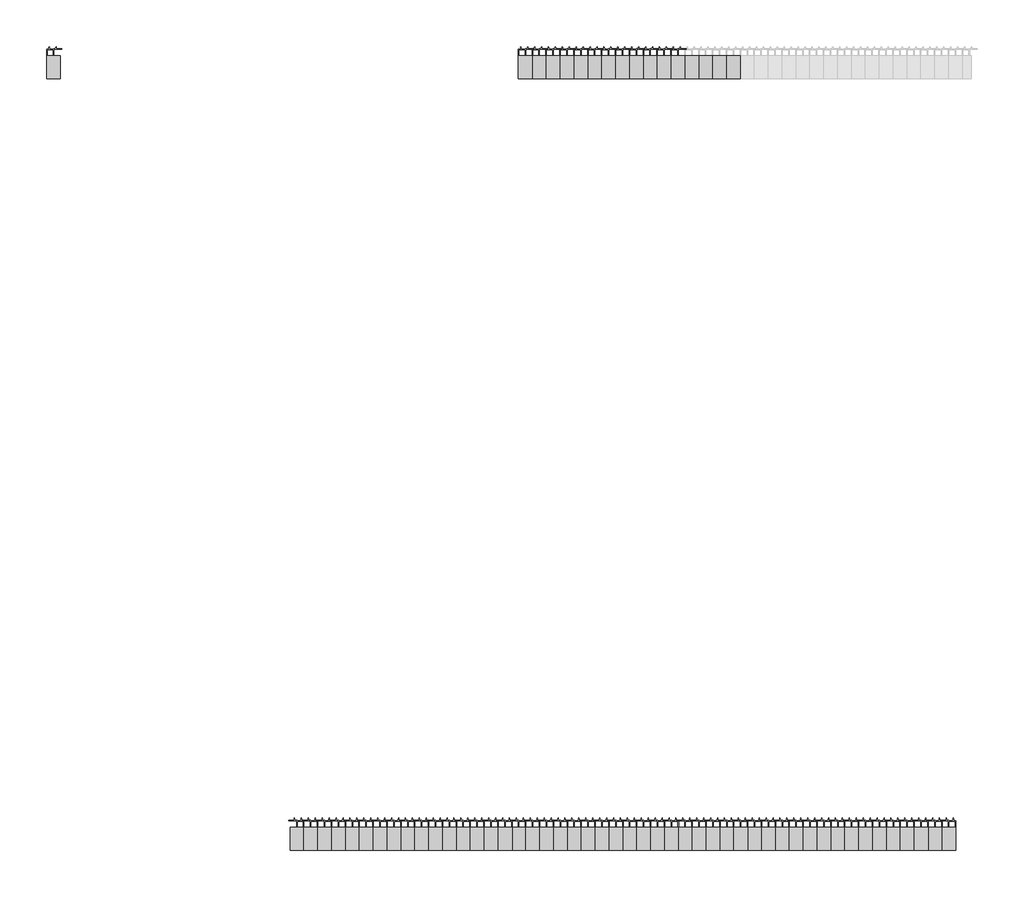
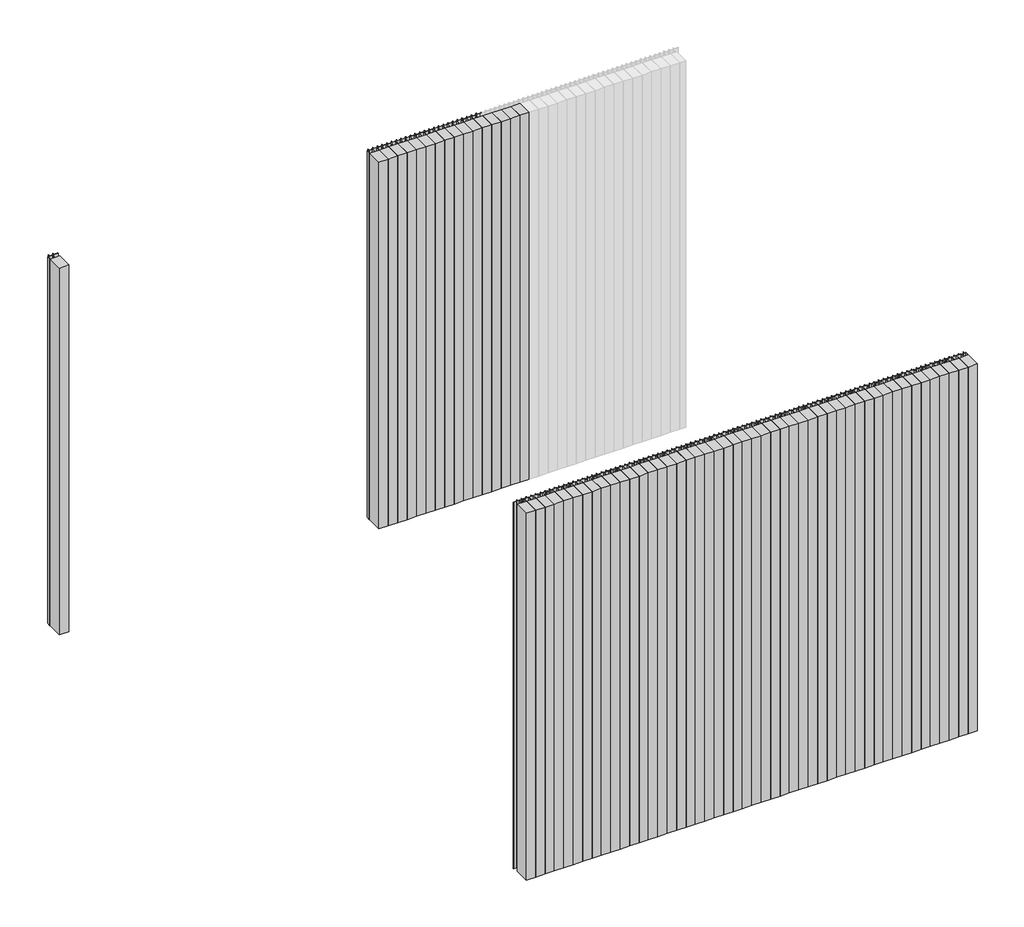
# One storey, part 1 of 3: 65 plates, 61 members.
"""IFC4 building model written with IfcOpenShell, lengths in millimetres."""

from ifc_helpers import new_model, si_unit, origin, place, context, project, spatial, transform, mapped, element, save
from components import rectangular_mullion_776733ef, rectangular_mullion_087e8397, rectangular_mullion_6a9919f5, rectangular_mullion_e1b6cc7b, empty_system_panel_empty_5508d8ad, empty_system_panel_empty_aff67664, empty_system_panel_empty_a3f81492, empty_system_panel_empty_61b9929b

model = new_model("IFC4")

# Units and contexts
model_context = context("Model", 3, world=origin())
ifc_project = project(units=[si_unit("LENGTHUNIT", "METRE", prefix="MILLI")], contexts=[model_context])

# Site, building, storey
site = spatial("IfcSite", under=ifc_project)
building = spatial("IfcBuilding", under=site)
storey = spatial("IfcBuildingStorey", under=building, Name="REN - Top", Elevation=4000.0)

# Members
placement = place(None, origin())
rectangular_mullion_shape = rectangular_mullion_776733ef(model_context)
element("IfcMember", 1, ObjectType="Rectangular Mullion : Renson_Linarte_LA-E25-01 Zone B", at=placement, inside=storey, context=model_context, shape_type="MappedRepresentation", body=[
    mapped(rectangular_mullion_shape, transform((385015.5749429, -18477.8406315, 0.0), x_axis=(1.0, 0.0, 0.0), y_axis=(0.0, -1.0, 0.0), z_axis=(0.0, 0.0, -1.0))),
])
element("IfcMember", 2, ObjectType="Rectangular Mullion : Renson_Linarte_LA-E25-01 Zone B", at=placement, inside=storey, context=model_context, shape_type="MappedRepresentation", body=[
    mapped(rectangular_mullion_shape, transform((385075.5749429, -18477.8406315, 0.0), x_axis=(1.0, 0.0, 0.0), y_axis=(0.0, -1.0, 0.0), z_axis=(0.0, 0.0, -1.0))),
])
element("IfcMember", 3, ObjectType="Rectangular Mullion : Renson_Linarte_LA-E25-01 Zone B", at=placement, inside=storey, context=model_context, shape_type="MappedRepresentation", body=[
    mapped(rectangular_mullion_shape, transform((385135.5749429, -18477.8406315, 0.0), x_axis=(1.0, 0.0, 0.0), y_axis=(0.0, -1.0, 0.0), z_axis=(0.0, 0.0, -1.0))),
])
element("IfcMember", 4, ObjectType="Rectangular Mullion : Renson_Linarte_LA-E25-01 Zone B", at=placement, inside=storey, context=model_context, shape_type="MappedRepresentation", body=[
    mapped(rectangular_mullion_shape, transform((385195.5749429, -18477.8406315, 0.0), x_axis=(1.0, 0.0, 0.0), y_axis=(0.0, -1.0, 0.0), z_axis=(0.0, 0.0, -1.0))),
])
element("IfcMember", 5, ObjectType="Rectangular Mullion : Renson_Linarte_LA-E25-01 Zone B", at=placement, inside=storey, context=model_context, shape_type="MappedRepresentation", body=[
    mapped(rectangular_mullion_shape, transform((385255.5749429, -18477.8406315, 0.0), x_axis=(1.0, 0.0, 0.0), y_axis=(0.0, -1.0, 0.0), z_axis=(0.0, 0.0, -1.0))),
])
element("IfcMember", 6, ObjectType="Rectangular Mullion : Renson_Linarte_LA-E25-01 Zone B", at=placement, inside=storey, context=model_context, shape_type="MappedRepresentation", body=[
    mapped(rectangular_mullion_shape, transform((385315.5749429, -18477.8406315, 0.0), x_axis=(1.0, 0.0, 0.0), y_axis=(0.0, -1.0, 0.0), z_axis=(0.0, 0.0, -1.0))),
])
element("IfcMember", 7, ObjectType="Rectangular Mullion : Renson_Linarte_LA-E25-01 Zone B", at=placement, inside=storey, context=model_context, shape_type="MappedRepresentation", body=[
    mapped(rectangular_mullion_shape, transform((385375.5749429, -18477.8406315, 0.0), x_axis=(1.0, 0.0, 0.0), y_axis=(0.0, -1.0, 0.0), z_axis=(0.0, 0.0, -1.0))),
])
element("IfcMember", 8, ObjectType="Rectangular Mullion : Renson_Linarte_LA-E25-01 Zone B", at=placement, inside=storey, context=model_context, shape_type="MappedRepresentation", body=[
    mapped(rectangular_mullion_shape, transform((385435.5749429, -18477.8406315, 0.0), x_axis=(1.0, 0.0, 0.0), y_axis=(0.0, -1.0, 0.0), z_axis=(0.0, 0.0, -1.0))),
])
element("IfcMember", 9, ObjectType="Rectangular Mullion : Renson_Linarte_LA-E25-01 Zone B", at=placement, inside=storey, context=model_context, shape_type="MappedRepresentation", body=[
    mapped(rectangular_mullion_shape, transform((385495.5749429, -18477.8406315, 0.0), x_axis=(1.0, 0.0, 0.0), y_axis=(0.0, -1.0, 0.0), z_axis=(0.0, 0.0, -1.0))),
])
element("IfcMember", 10, ObjectType="Rectangular Mullion : Renson_Linarte_LA-E25-01 Zone B", at=placement, inside=storey, context=model_context, shape_type="MappedRepresentation", body=[
    mapped(rectangular_mullion_shape, transform((385555.5749429, -18477.8406315, 0.0), x_axis=(1.0, 0.0, 0.0), y_axis=(0.0, -1.0, 0.0), z_axis=(0.0, 0.0, -1.0))),
])
element("IfcMember", 11, ObjectType="Rectangular Mullion : Renson_Linarte_LA-E25-01 Zone B", at=placement, inside=storey, context=model_context, shape_type="MappedRepresentation", body=[
    mapped(rectangular_mullion_shape, transform((385615.5749429, -18477.8406315, 0.0), x_axis=(1.0, 0.0, 0.0), y_axis=(0.0, -1.0, 0.0), z_axis=(0.0, 0.0, -1.0))),
])
element("IfcMember", 12, ObjectType="Rectangular Mullion : Renson_Linarte_LA-E25-01 Zone B", at=placement, inside=storey, context=model_context, shape_type="MappedRepresentation", body=[
    mapped(rectangular_mullion_shape, transform((385675.5749429, -18477.8406315, 0.0), x_axis=(1.0, 0.0, 0.0), y_axis=(0.0, -1.0, 0.0), z_axis=(0.0, 0.0, -1.0))),
])
rectangular_mullion_2_shape = rectangular_mullion_087e8397(model_context)
element("IfcMember", 13, ObjectType="Rectangular Mullion : Renson_Linarte_LA-E25-01 Zone B", at=placement, inside=storey, context=model_context, shape_type="MappedRepresentation", body=[
    mapped(rectangular_mullion_2_shape, transform((382975.5749426, -18477.8406315, 2475.0), x_axis=(-1.0, 0.0, 0.0), y_axis=(0.0, -1.0, 0.0), z_axis=(0.0, 0.0, 1.0))),
])
rectangular_mullion_3_shape = rectangular_mullion_6a9919f5(model_context)
element("IfcMember", 14, ObjectType="Rectangular Mullion : Renson_Linarte_LA-E25-01 Zone B", at=placement, inside=storey, context=model_context, shape_type="MappedRepresentation", body=[
    mapped(rectangular_mullion_3_shape, transform((386789.0900204, -21816.7045876, 0.0), x_axis=(-1.0, 0.0, 0.0), y_axis=(0.0, 1.0, 0.0), z_axis=(0.0, 0.0, -1.0))),
])
element("IfcMember", 15, ObjectType="Rectangular Mullion : Renson_Linarte_LA-E25-01 Zone B", at=placement, inside=storey, context=model_context, shape_type="MappedRepresentation", body=[
    mapped(rectangular_mullion_3_shape, transform((386729.0900204, -21816.7045876, 0.0), x_axis=(-1.0, 0.0, 0.0), y_axis=(0.0, 1.0, 0.0), z_axis=(0.0, 0.0, -1.0))),
])
element("IfcMember", 16, ObjectType="Rectangular Mullion : Renson_Linarte_LA-E25-01 Zone B", at=placement, inside=storey, context=model_context, shape_type="MappedRepresentation", body=[
    mapped(rectangular_mullion_3_shape, transform((386669.0900204, -21816.7045876, 0.0), x_axis=(-1.0, 0.0, 0.0), y_axis=(0.0, 1.0, 0.0), z_axis=(0.0, 0.0, -1.0))),
])
element("IfcMember", 17, ObjectType="Rectangular Mullion : Renson_Linarte_LA-E25-01 Zone B", at=placement, inside=storey, context=model_context, shape_type="MappedRepresentation", body=[
    mapped(rectangular_mullion_3_shape, transform((386609.0900204, -21816.7045876, 0.0), x_axis=(-1.0, 0.0, 0.0), y_axis=(0.0, 1.0, 0.0), z_axis=(0.0, 0.0, -1.0))),
])
element("IfcMember", 18, ObjectType="Rectangular Mullion : Renson_Linarte_LA-E25-01 Zone B", at=placement, inside=storey, context=model_context, shape_type="MappedRepresentation", body=[
    mapped(rectangular_mullion_3_shape, transform((386549.0900204, -21816.7045876, 0.0), x_axis=(-1.0, 0.0, 0.0), y_axis=(0.0, 1.0, 0.0), z_axis=(0.0, 0.0, -1.0))),
])
element("IfcMember", 19, ObjectType="Rectangular Mullion : Renson_Linarte_LA-E25-01 Zone B", at=placement, inside=storey, context=model_context, shape_type="MappedRepresentation", body=[
    mapped(rectangular_mullion_3_shape, transform((386489.0900204, -21816.7045876, 0.0), x_axis=(-1.0, 0.0, 0.0), y_axis=(0.0, 1.0, 0.0), z_axis=(0.0, 0.0, -1.0))),
])
element("IfcMember", 20, ObjectType="Rectangular Mullion : Renson_Linarte_LA-E25-01 Zone B", at=placement, inside=storey, context=model_context, shape_type="MappedRepresentation", body=[
    mapped(rectangular_mullion_3_shape, transform((386429.0900204, -21816.7045876, 0.0), x_axis=(-1.0, 0.0, 0.0), y_axis=(0.0, 1.0, 0.0), z_axis=(0.0, 0.0, -1.0))),
])
element("IfcMember", 21, ObjectType="Rectangular Mullion : Renson_Linarte_LA-E25-01 Zone B", at=placement, inside=storey, context=model_context, shape_type="MappedRepresentation", body=[
    mapped(rectangular_mullion_3_shape, transform((386369.0900204, -21816.7045876, 0.0), x_axis=(-1.0, 0.0, 0.0), y_axis=(0.0, 1.0, 0.0), z_axis=(0.0, 0.0, -1.0))),
])
element("IfcMember", 22, ObjectType="Rectangular Mullion : Renson_Linarte_LA-E25-01 Zone B", at=placement, inside=storey, context=model_context, shape_type="MappedRepresentation", body=[
    mapped(rectangular_mullion_3_shape, transform((386309.0900204, -21816.7045876, 0.0), x_axis=(-1.0, 0.0, 0.0), y_axis=(0.0, 1.0, 0.0), z_axis=(0.0, 0.0, -1.0))),
])
element("IfcMember", 23, ObjectType="Rectangular Mullion : Renson_Linarte_LA-E25-01 Zone B", at=placement, inside=storey, context=model_context, shape_type="MappedRepresentation", body=[
    mapped(rectangular_mullion_3_shape, transform((386249.0900204, -21816.7045876, 0.0), x_axis=(-1.0, 0.0, 0.0), y_axis=(0.0, 1.0, 0.0), z_axis=(0.0, 0.0, -1.0))),
])
element("IfcMember", 24, ObjectType="Rectangular Mullion : Renson_Linarte_LA-E25-01 Zone B", at=placement, inside=storey, context=model_context, shape_type="MappedRepresentation", body=[
    mapped(rectangular_mullion_3_shape, transform((386189.0900204, -21816.7045876, 0.0), x_axis=(-1.0, 0.0, 0.0), y_axis=(0.0, 1.0, 0.0), z_axis=(0.0, 0.0, -1.0))),
])
element("IfcMember", 25, ObjectType="Rectangular Mullion : Renson_Linarte_LA-E25-01 Zone B", at=placement, inside=storey, context=model_context, shape_type="MappedRepresentation", body=[
    mapped(rectangular_mullion_3_shape, transform((386129.0900204, -21816.7045876, 0.0), x_axis=(-1.0, 0.0, 0.0), y_axis=(0.0, 1.0, 0.0), z_axis=(0.0, 0.0, -1.0))),
])
element("IfcMember", 26, ObjectType="Rectangular Mullion : Renson_Linarte_LA-E25-01 Zone B", at=placement, inside=storey, context=model_context, shape_type="MappedRepresentation", body=[
    mapped(rectangular_mullion_3_shape, transform((386069.0900204, -21816.7045876, 0.0), x_axis=(-1.0, 0.0, 0.0), y_axis=(0.0, 1.0, 0.0), z_axis=(0.0, 0.0, -1.0))),
])
element("IfcMember", 27, ObjectType="Rectangular Mullion : Renson_Linarte_LA-E25-01 Zone B", at=placement, inside=storey, context=model_context, shape_type="MappedRepresentation", body=[
    mapped(rectangular_mullion_3_shape, transform((386009.0900204, -21816.7045876, 0.0), x_axis=(-1.0, 0.0, 0.0), y_axis=(0.0, 1.0, 0.0), z_axis=(0.0, 0.0, -1.0))),
])
element("IfcMember", 28, ObjectType="Rectangular Mullion : Renson_Linarte_LA-E25-01 Zone B", at=placement, inside=storey, context=model_context, shape_type="MappedRepresentation", body=[
    mapped(rectangular_mullion_3_shape, transform((385949.0900204, -21816.7045876, 0.0), x_axis=(-1.0, 0.0, 0.0), y_axis=(0.0, 1.0, 0.0), z_axis=(0.0, 0.0, -1.0))),
])
element("IfcMember", 29, ObjectType="Rectangular Mullion : Renson_Linarte_LA-E25-01 Zone B", at=placement, inside=storey, context=model_context, shape_type="MappedRepresentation", body=[
    mapped(rectangular_mullion_3_shape, transform((385889.0900204, -21816.7045876, 0.0), x_axis=(-1.0, 0.0, 0.0), y_axis=(0.0, 1.0, 0.0), z_axis=(0.0, 0.0, -1.0))),
])
element("IfcMember", 30, ObjectType="Rectangular Mullion : Renson_Linarte_LA-E25-01 Zone B", at=placement, inside=storey, context=model_context, shape_type="MappedRepresentation", body=[
    mapped(rectangular_mullion_3_shape, transform((385829.0900204, -21816.7045876, 0.0), x_axis=(-1.0, 0.0, 0.0), y_axis=(0.0, 1.0, 0.0), z_axis=(0.0, 0.0, -1.0))),
])
element("IfcMember", 31, ObjectType="Rectangular Mullion : Renson_Linarte_LA-E25-01 Zone B", at=placement, inside=storey, context=model_context, shape_type="MappedRepresentation", body=[
    mapped(rectangular_mullion_3_shape, transform((385769.0900204, -21816.7045876, 0.0), x_axis=(-1.0, 0.0, 0.0), y_axis=(0.0, 1.0, 0.0), z_axis=(0.0, 0.0, -1.0))),
])
element("IfcMember", 32, ObjectType="Rectangular Mullion : Renson_Linarte_LA-E25-01 Zone B", at=placement, inside=storey, context=model_context, shape_type="MappedRepresentation", body=[
    mapped(rectangular_mullion_3_shape, transform((385709.0900204, -21816.7045876, 0.0), x_axis=(-1.0, 0.0, 0.0), y_axis=(0.0, 1.0, 0.0), z_axis=(0.0, 0.0, -1.0))),
])
element("IfcMember", 33, ObjectType="Rectangular Mullion : Renson_Linarte_LA-E25-01 Zone B", at=placement, inside=storey, context=model_context, shape_type="MappedRepresentation", body=[
    mapped(rectangular_mullion_3_shape, transform((385649.0900204, -21816.7045876, 0.0), x_axis=(-1.0, 0.0, 0.0), y_axis=(0.0, 1.0, 0.0), z_axis=(0.0, 0.0, -1.0))),
])
element("IfcMember", 34, ObjectType="Rectangular Mullion : Renson_Linarte_LA-E25-01 Zone B", at=placement, inside=storey, context=model_context, shape_type="MappedRepresentation", body=[
    mapped(rectangular_mullion_3_shape, transform((385589.0900204, -21816.7045876, 0.0), x_axis=(-1.0, 0.0, 0.0), y_axis=(0.0, 1.0, 0.0), z_axis=(0.0, 0.0, -1.0))),
])
element("IfcMember", 35, ObjectType="Rectangular Mullion : Renson_Linarte_LA-E25-01 Zone B", at=placement, inside=storey, context=model_context, shape_type="MappedRepresentation", body=[
    mapped(rectangular_mullion_3_shape, transform((385529.0900204, -21816.7045876, 0.0), x_axis=(-1.0, 0.0, 0.0), y_axis=(0.0, 1.0, 0.0), z_axis=(0.0, 0.0, -1.0))),
])
element("IfcMember", 36, ObjectType="Rectangular Mullion : Renson_Linarte_LA-E25-01 Zone B", at=placement, inside=storey, context=model_context, shape_type="MappedRepresentation", body=[
    mapped(rectangular_mullion_3_shape, transform((386849.0900204, -21816.7045876, 0.0), x_axis=(-1.0, 0.0, 0.0), y_axis=(0.0, 1.0, 0.0), z_axis=(0.0, 0.0, -1.0))),
])
element("IfcMember", 37, ObjectType="Rectangular Mullion : Renson_Linarte_LA-E25-01 Zone B", at=placement, inside=storey, context=model_context, shape_type="MappedRepresentation", body=[
    mapped(rectangular_mullion_3_shape, transform((385469.0900204, -21816.7045876, 0.0), x_axis=(-1.0, 0.0, 0.0), y_axis=(0.0, 1.0, 0.0), z_axis=(0.0, 0.0, -1.0))),
])
element("IfcMember", 38, ObjectType="Rectangular Mullion : Renson_Linarte_LA-E25-01 Zone B", at=placement, inside=storey, context=model_context, shape_type="MappedRepresentation", body=[
    mapped(rectangular_mullion_3_shape, transform((385409.0900204, -21816.7045876, 0.0), x_axis=(-1.0, 0.0, 0.0), y_axis=(0.0, 1.0, 0.0), z_axis=(0.0, 0.0, -1.0))),
])
element("IfcMember", 39, ObjectType="Rectangular Mullion : Renson_Linarte_LA-E25-01 Zone B", at=placement, inside=storey, context=model_context, shape_type="MappedRepresentation", body=[
    mapped(rectangular_mullion_3_shape, transform((385349.0900204, -21816.7045876, 0.0), x_axis=(-1.0, 0.0, 0.0), y_axis=(0.0, 1.0, 0.0), z_axis=(0.0, 0.0, -1.0))),
])
element("IfcMember", 40, ObjectType="Rectangular Mullion : Renson_Linarte_LA-E25-01 Zone B", at=placement, inside=storey, context=model_context, shape_type="MappedRepresentation", body=[
    mapped(rectangular_mullion_3_shape, transform((385289.0900204, -21816.7045876, 0.0), x_axis=(-1.0, 0.0, 0.0), y_axis=(0.0, 1.0, 0.0), z_axis=(0.0, 0.0, -1.0))),
])
element("IfcMember", 41, ObjectType="Rectangular Mullion : Renson_Linarte_LA-E25-01 Zone B", at=placement, inside=storey, context=model_context, shape_type="MappedRepresentation", body=[
    mapped(rectangular_mullion_3_shape, transform((385229.0900204, -21816.7045876, 0.0), x_axis=(-1.0, 0.0, 0.0), y_axis=(0.0, 1.0, 0.0), z_axis=(0.0, 0.0, -1.0))),
])
element("IfcMember", 42, ObjectType="Rectangular Mullion : Renson_Linarte_LA-E25-01 Zone B", at=placement, inside=storey, context=model_context, shape_type="MappedRepresentation", body=[
    mapped(rectangular_mullion_3_shape, transform((385169.0900204, -21816.7045876, 0.0), x_axis=(-1.0, 0.0, 0.0), y_axis=(0.0, 1.0, 0.0), z_axis=(0.0, 0.0, -1.0))),
])
element("IfcMember", 43, ObjectType="Rectangular Mullion : Renson_Linarte_LA-E25-01 Zone B", at=placement, inside=storey, context=model_context, shape_type="MappedRepresentation", body=[
    mapped(rectangular_mullion_3_shape, transform((385109.0900204, -21816.7045876, 0.0), x_axis=(-1.0, 0.0, 0.0), y_axis=(0.0, 1.0, 0.0), z_axis=(0.0, 0.0, -1.0))),
])
element("IfcMember", 44, ObjectType="Rectangular Mullion : Renson_Linarte_LA-E25-01 Zone B", at=placement, inside=storey, context=model_context, shape_type="MappedRepresentation", body=[
    mapped(rectangular_mullion_3_shape, transform((385049.0900204, -21816.7045876, 0.0), x_axis=(-1.0, 0.0, 0.0), y_axis=(0.0, 1.0, 0.0), z_axis=(0.0, 0.0, -1.0))),
])
element("IfcMember", 45, ObjectType="Rectangular Mullion : Renson_Linarte_LA-E25-01 Zone B", at=placement, inside=storey, context=model_context, shape_type="MappedRepresentation", body=[
    mapped(rectangular_mullion_3_shape, transform((384989.0900204, -21816.7045876, 0.0), x_axis=(-1.0, 0.0, 0.0), y_axis=(0.0, 1.0, 0.0), z_axis=(0.0, 0.0, -1.0))),
])
element("IfcMember", 46, ObjectType="Rectangular Mullion : Renson_Linarte_LA-E25-01 Zone B", at=placement, inside=storey, context=model_context, shape_type="MappedRepresentation", body=[
    mapped(rectangular_mullion_3_shape, transform((384929.0900204, -21816.7045876, 0.0), x_axis=(-1.0, 0.0, 0.0), y_axis=(0.0, 1.0, 0.0), z_axis=(0.0, 0.0, -1.0))),
])
element("IfcMember", 47, ObjectType="Rectangular Mullion : Renson_Linarte_LA-E25-01 Zone B", at=placement, inside=storey, context=model_context, shape_type="MappedRepresentation", body=[
    mapped(rectangular_mullion_3_shape, transform((384869.0900204, -21816.7045876, 0.0), x_axis=(-1.0, 0.0, 0.0), y_axis=(0.0, 1.0, 0.0), z_axis=(0.0, 0.0, -1.0))),
])
element("IfcMember", 48, ObjectType="Rectangular Mullion : Renson_Linarte_LA-E25-01 Zone B", at=placement, inside=storey, context=model_context, shape_type="MappedRepresentation", body=[
    mapped(rectangular_mullion_3_shape, transform((384809.0900204, -21816.7045876, 0.0), x_axis=(-1.0, 0.0, 0.0), y_axis=(0.0, 1.0, 0.0), z_axis=(0.0, 0.0, -1.0))),
])
element("IfcMember", 49, ObjectType="Rectangular Mullion : Renson_Linarte_LA-E25-01 Zone B", at=placement, inside=storey, context=model_context, shape_type="MappedRepresentation", body=[
    mapped(rectangular_mullion_3_shape, transform((384749.0900204, -21816.7045876, 0.0), x_axis=(-1.0, 0.0, 0.0), y_axis=(0.0, 1.0, 0.0), z_axis=(0.0, 0.0, -1.0))),
])
element("IfcMember", 50, ObjectType="Rectangular Mullion : Renson_Linarte_LA-E25-01 Zone B", at=placement, inside=storey, context=model_context, shape_type="MappedRepresentation", body=[
    mapped(rectangular_mullion_3_shape, transform((384689.0900204, -21816.7045876, 0.0), x_axis=(-1.0, 0.0, 0.0), y_axis=(0.0, 1.0, 0.0), z_axis=(0.0, 0.0, -1.0))),
])
element("IfcMember", 51, ObjectType="Rectangular Mullion : Renson_Linarte_LA-E25-01 Zone B", at=placement, inside=storey, context=model_context, shape_type="MappedRepresentation", body=[
    mapped(rectangular_mullion_3_shape, transform((384629.0900204, -21816.7045876, 0.0), x_axis=(-1.0, 0.0, 0.0), y_axis=(0.0, 1.0, 0.0), z_axis=(0.0, 0.0, -1.0))),
])
element("IfcMember", 52, ObjectType="Rectangular Mullion : Renson_Linarte_LA-E25-01 Zone B", at=placement, inside=storey, context=model_context, shape_type="MappedRepresentation", body=[
    mapped(rectangular_mullion_3_shape, transform((384569.0900204, -21816.7045876, 0.0), x_axis=(-1.0, 0.0, 0.0), y_axis=(0.0, 1.0, 0.0), z_axis=(0.0, 0.0, -1.0))),
])
element("IfcMember", 53, ObjectType="Rectangular Mullion : Renson_Linarte_LA-E25-01 Zone B", at=placement, inside=storey, context=model_context, shape_type="MappedRepresentation", body=[
    mapped(rectangular_mullion_3_shape, transform((384509.0900204, -21816.7045876, 0.0), x_axis=(-1.0, 0.0, 0.0), y_axis=(0.0, 1.0, 0.0), z_axis=(0.0, 0.0, -1.0))),
])
element("IfcMember", 54, ObjectType="Rectangular Mullion : Renson_Linarte_LA-E25-01 Zone B", at=placement, inside=storey, context=model_context, shape_type="MappedRepresentation", body=[
    mapped(rectangular_mullion_3_shape, transform((384449.0900204, -21816.7045876, 0.0), x_axis=(-1.0, 0.0, 0.0), y_axis=(0.0, 1.0, 0.0), z_axis=(0.0, 0.0, -1.0))),
])
element("IfcMember", 55, ObjectType="Rectangular Mullion : Renson_Linarte_LA-E25-01 Zone B", at=placement, inside=storey, context=model_context, shape_type="MappedRepresentation", body=[
    mapped(rectangular_mullion_3_shape, transform((384389.0900204, -21816.7045876, 0.0), x_axis=(-1.0, 0.0, 0.0), y_axis=(0.0, 1.0, 0.0), z_axis=(0.0, 0.0, -1.0))),
])
element("IfcMember", 56, ObjectType="Rectangular Mullion : Renson_Linarte_LA-E25-01 Zone B", at=placement, inside=storey, context=model_context, shape_type="MappedRepresentation", body=[
    mapped(rectangular_mullion_3_shape, transform((384329.0900204, -21816.7045876, 0.0), x_axis=(-1.0, 0.0, 0.0), y_axis=(0.0, 1.0, 0.0), z_axis=(0.0, 0.0, -1.0))),
])
element("IfcMember", 57, ObjectType="Rectangular Mullion : Renson_Linarte_LA-E25-01 Zone B", at=placement, inside=storey, context=model_context, shape_type="MappedRepresentation", body=[
    mapped(rectangular_mullion_3_shape, transform((384269.0900204, -21816.7045876, 0.0), x_axis=(-1.0, 0.0, 0.0), y_axis=(0.0, 1.0, 0.0), z_axis=(0.0, 0.0, -1.0))),
])
element("IfcMember", 58, ObjectType="Rectangular Mullion : Renson_Linarte_LA-E25-01 Zone B", at=placement, inside=storey, context=model_context, shape_type="MappedRepresentation", body=[
    mapped(rectangular_mullion_3_shape, transform((384209.0900204, -21816.7045876, 0.0), x_axis=(-1.0, 0.0, 0.0), y_axis=(0.0, 1.0, 0.0), z_axis=(0.0, 0.0, -1.0))),
])
element("IfcMember", 59, ObjectType="Rectangular Mullion : Renson_Linarte_LA-E25-01 Zone B", at=placement, inside=storey, context=model_context, shape_type="MappedRepresentation", body=[
    mapped(rectangular_mullion_3_shape, transform((384149.0900204, -21816.7045876, 0.0), x_axis=(-1.0, 0.0, 0.0), y_axis=(0.0, 1.0, 0.0), z_axis=(0.0, 0.0, -1.0))),
])
element("IfcMember", 60, ObjectType="Rectangular Mullion : Renson_Linarte_LA-E25-01 Zone B", at=placement, inside=storey, context=model_context, shape_type="MappedRepresentation", body=[
    mapped(rectangular_mullion_3_shape, transform((384089.0900204, -21816.7045876, 0.0), x_axis=(-1.0, 0.0, 0.0), y_axis=(0.0, 1.0, 0.0), z_axis=(0.0, 0.0, -1.0))),
])
rectangular_mullion_4_shape = rectangular_mullion_e1b6cc7b(model_context)
element("IfcMember", 61, ObjectType="Rectangular Mullion : Renson_Linarte_LA-E25-01 Zone B", at=placement, inside=storey, context=model_context, shape_type="MappedRepresentation", body=[
    mapped(rectangular_mullion_4_shape, transform((386909.0900207, -21816.7045876, 2475.0), x_axis=(1.0, 0.0, 0.0), y_axis=(0.0, 1.0, 0.0), z_axis=(0.0, 0.0, 1.0))),
])

# Plates
empty_system_panel_empty_shape = empty_system_panel_empty_5508d8ad(model_context)
element("IfcPlate", 62, ObjectType="Empty System Panel : Empty", at=placement, inside=storey, context=model_context, shape_type="MappedRepresentation", body=[
    mapped(empty_system_panel_empty_shape, transform((385045.5749429, -18477.8406315, 0.0), x_axis=(1.0, 0.0, 0.0), y_axis=(0.0, 1.0, 0.0), z_axis=(0.0, 0.0, 1.0))),
])
element("IfcPlate", 63, ObjectType="Empty System Panel : Empty", at=placement, inside=storey, context=model_context, shape_type="MappedRepresentation", body=[
    mapped(empty_system_panel_empty_shape, transform((385105.5749429, -18477.8406315, 0.0), x_axis=(1.0, 0.0, 0.0), y_axis=(0.0, 1.0, 0.0), z_axis=(0.0, 0.0, 1.0))),
])
element("IfcPlate", 64, ObjectType="Empty System Panel : Empty", at=placement, inside=storey, context=model_context, shape_type="MappedRepresentation", body=[
    mapped(empty_system_panel_empty_shape, transform((385165.5749429, -18477.8406315, 0.0), x_axis=(1.0, 0.0, 0.0), y_axis=(0.0, 1.0, 0.0), z_axis=(0.0, 0.0, 1.0))),
])
element("IfcPlate", 65, ObjectType="Empty System Panel : Empty", at=placement, inside=storey, context=model_context, shape_type="MappedRepresentation", body=[
    mapped(empty_system_panel_empty_shape, transform((385225.5749429, -18477.8406315, 0.0), x_axis=(1.0, 0.0, 0.0), y_axis=(0.0, 1.0, 0.0), z_axis=(0.0, 0.0, 1.0))),
])
element("IfcPlate", 66, ObjectType="Empty System Panel : Empty", at=placement, inside=storey, context=model_context, shape_type="MappedRepresentation", body=[
    mapped(empty_system_panel_empty_shape, transform((385285.5749429, -18477.8406315, 0.0), x_axis=(1.0, 0.0, 0.0), y_axis=(0.0, 1.0, 0.0), z_axis=(0.0, 0.0, 1.0))),
])
element("IfcPlate", 67, ObjectType="Empty System Panel : Empty", at=placement, inside=storey, context=model_context, shape_type="MappedRepresentation", body=[
    mapped(empty_system_panel_empty_shape, transform((385345.5749429, -18477.8406315, 0.0), x_axis=(1.0, 0.0, 0.0), y_axis=(0.0, 1.0, 0.0), z_axis=(0.0, 0.0, 1.0))),
])
element("IfcPlate", 68, ObjectType="Empty System Panel : Empty", at=placement, inside=storey, context=model_context, shape_type="MappedRepresentation", body=[
    mapped(empty_system_panel_empty_shape, transform((385405.5749429, -18477.8406315, 0.0), x_axis=(1.0, 0.0, 0.0), y_axis=(0.0, 1.0, 0.0), z_axis=(0.0, 0.0, 1.0))),
])
element("IfcPlate", 69, ObjectType="Empty System Panel : Empty", at=placement, inside=storey, context=model_context, shape_type="MappedRepresentation", body=[
    mapped(empty_system_panel_empty_shape, transform((385465.5749429, -18477.8406315, 0.0), x_axis=(1.0, 0.0, 0.0), y_axis=(0.0, 1.0, 0.0), z_axis=(0.0, 0.0, 1.0))),
])
element("IfcPlate", 70, ObjectType="Empty System Panel : Empty", at=placement, inside=storey, context=model_context, shape_type="MappedRepresentation", body=[
    mapped(empty_system_panel_empty_shape, transform((385525.5749429, -18477.8406315, 0.0), x_axis=(1.0, 0.0, 0.0), y_axis=(0.0, 1.0, 0.0), z_axis=(0.0, 0.0, 1.0))),
])
element("IfcPlate", 71, ObjectType="Empty System Panel : Empty", at=placement, inside=storey, context=model_context, shape_type="MappedRepresentation", body=[
    mapped(empty_system_panel_empty_shape, transform((385585.5749429, -18477.8406315, 0.0), x_axis=(1.0, 0.0, 0.0), y_axis=(0.0, 1.0, 0.0), z_axis=(0.0, 0.0, 1.0))),
])
element("IfcPlate", 72, ObjectType="Empty System Panel : Empty", at=placement, inside=storey, context=model_context, shape_type="MappedRepresentation", body=[
    mapped(empty_system_panel_empty_shape, transform((385645.5749429, -18477.8406315, 0.0), x_axis=(1.0, 0.0, 0.0), y_axis=(0.0, 1.0, 0.0), z_axis=(0.0, 0.0, 1.0))),
])
element("IfcPlate", 73, ObjectType="Empty System Panel : Empty", at=placement, inside=storey, context=model_context, shape_type="MappedRepresentation", body=[
    mapped(empty_system_panel_empty_shape, transform((385705.5749429, -18477.8406315, 0.0), x_axis=(1.0, 0.0, 0.0), y_axis=(0.0, 1.0, 0.0), z_axis=(0.0, 0.0, 1.0))),
])
element("IfcPlate", 74, ObjectType="Empty System Panel : Empty", at=placement, inside=storey, context=model_context, shape_type="MappedRepresentation", body=[
    mapped(empty_system_panel_empty_shape, transform((385765.5749429, -18477.8406315, 0.0), x_axis=(1.0, 0.0, 0.0), y_axis=(0.0, 1.0, 0.0), z_axis=(0.0, 0.0, 1.0))),
])
element("IfcPlate", 75, ObjectType="Empty System Panel : Empty", at=placement, inside=storey, context=model_context, shape_type="MappedRepresentation", body=[
    mapped(empty_system_panel_empty_shape, transform((385825.5749429, -18477.8406315, 0.0), x_axis=(1.0, 0.0, 0.0), y_axis=(0.0, 1.0, 0.0), z_axis=(0.0, 0.0, 1.0))),
])
element("IfcPlate", 76, ObjectType="Empty System Panel : Empty", at=placement, inside=storey, context=model_context, shape_type="MappedRepresentation", body=[
    mapped(empty_system_panel_empty_shape, transform((385885.5749429, -18477.8406315, 0.0), x_axis=(1.0, 0.0, 0.0), y_axis=(0.0, 1.0, 0.0), z_axis=(0.0, 0.0, 1.0))),
])
element("IfcPlate", 77, ObjectType="Empty System Panel : Empty", at=placement, inside=storey, context=model_context, shape_type="MappedRepresentation", body=[
    mapped(empty_system_panel_empty_shape, transform((385945.5749429, -18477.8406315, 0.0), x_axis=(1.0, 0.0, 0.0), y_axis=(0.0, 1.0, 0.0), z_axis=(0.0, 0.0, 1.0))),
])
empty_system_panel_empty_2_shape = empty_system_panel_empty_aff67664(model_context)
element("IfcPlate", 78, ObjectType="Empty System Panel : Empty", at=placement, inside=storey, context=model_context, shape_type="MappedRepresentation", body=[
    mapped(empty_system_panel_empty_2_shape, transform((383005.5749427, -18477.8406315, 0.0), x_axis=(1.0, 0.0, 0.0), y_axis=(0.0, 1.0, 0.0), z_axis=(0.0, 0.0, 1.0))),
])
empty_system_panel_empty_3_shape = empty_system_panel_empty_a3f81492(model_context)
element("IfcPlate", 79, ObjectType="Empty System Panel : Empty", at=placement, inside=storey, context=model_context, shape_type="MappedRepresentation", body=[
    mapped(empty_system_panel_empty_3_shape, transform((386759.0900204, -21816.7045876, 0.0), x_axis=(-1.0, 0.0, 0.0), y_axis=(0.0, -1.0, 0.0), z_axis=(0.0, 0.0, 1.0))),
])
element("IfcPlate", 80, ObjectType="Empty System Panel : Empty", at=placement, inside=storey, context=model_context, shape_type="MappedRepresentation", body=[
    mapped(empty_system_panel_empty_3_shape, transform((386699.0900204, -21816.7045876, 0.0), x_axis=(-1.0, 0.0, 0.0), y_axis=(0.0, -1.0, 0.0), z_axis=(0.0, 0.0, 1.0))),
])
element("IfcPlate", 81, ObjectType="Empty System Panel : Empty", at=placement, inside=storey, context=model_context, shape_type="MappedRepresentation", body=[
    mapped(empty_system_panel_empty_3_shape, transform((386639.0900204, -21816.7045876, 0.0), x_axis=(-1.0, 0.0, 0.0), y_axis=(0.0, -1.0, 0.0), z_axis=(0.0, 0.0, 1.0))),
])
element("IfcPlate", 82, ObjectType="Empty System Panel : Empty", at=placement, inside=storey, context=model_context, shape_type="MappedRepresentation", body=[
    mapped(empty_system_panel_empty_3_shape, transform((386579.0900204, -21816.7045876, 0.0), x_axis=(-1.0, 0.0, 0.0), y_axis=(0.0, -1.0, 0.0), z_axis=(0.0, 0.0, 1.0))),
])
element("IfcPlate", 83, ObjectType="Empty System Panel : Empty", at=placement, inside=storey, context=model_context, shape_type="MappedRepresentation", body=[
    mapped(empty_system_panel_empty_3_shape, transform((386519.0900204, -21816.7045876, 0.0), x_axis=(-1.0, 0.0, 0.0), y_axis=(0.0, -1.0, 0.0), z_axis=(0.0, 0.0, 1.0))),
])
element("IfcPlate", 84, ObjectType="Empty System Panel : Empty", at=placement, inside=storey, context=model_context, shape_type="MappedRepresentation", body=[
    mapped(empty_system_panel_empty_3_shape, transform((386459.0900204, -21816.7045876, 0.0), x_axis=(-1.0, 0.0, 0.0), y_axis=(0.0, -1.0, 0.0), z_axis=(0.0, 0.0, 1.0))),
])
element("IfcPlate", 85, ObjectType="Empty System Panel : Empty", at=placement, inside=storey, context=model_context, shape_type="MappedRepresentation", body=[
    mapped(empty_system_panel_empty_3_shape, transform((386399.0900204, -21816.7045876, 0.0), x_axis=(-1.0, 0.0, 0.0), y_axis=(0.0, -1.0, 0.0), z_axis=(0.0, 0.0, 1.0))),
])
element("IfcPlate", 86, ObjectType="Empty System Panel : Empty", at=placement, inside=storey, context=model_context, shape_type="MappedRepresentation", body=[
    mapped(empty_system_panel_empty_3_shape, transform((386339.0900204, -21816.7045876, 0.0), x_axis=(-1.0, 0.0, 0.0), y_axis=(0.0, -1.0, 0.0), z_axis=(0.0, 0.0, 1.0))),
])
element("IfcPlate", 87, ObjectType="Empty System Panel : Empty", at=placement, inside=storey, context=model_context, shape_type="MappedRepresentation", body=[
    mapped(empty_system_panel_empty_3_shape, transform((386279.0900204, -21816.7045876, 0.0), x_axis=(-1.0, 0.0, 0.0), y_axis=(0.0, -1.0, 0.0), z_axis=(0.0, 0.0, 1.0))),
])
element("IfcPlate", 88, ObjectType="Empty System Panel : Empty", at=placement, inside=storey, context=model_context, shape_type="MappedRepresentation", body=[
    mapped(empty_system_panel_empty_3_shape, transform((386219.0900204, -21816.7045876, 0.0), x_axis=(-1.0, 0.0, 0.0), y_axis=(0.0, -1.0, 0.0), z_axis=(0.0, 0.0, 1.0))),
])
element("IfcPlate", 89, ObjectType="Empty System Panel : Empty", at=placement, inside=storey, context=model_context, shape_type="MappedRepresentation", body=[
    mapped(empty_system_panel_empty_3_shape, transform((386159.0900204, -21816.7045876, 0.0), x_axis=(-1.0, 0.0, 0.0), y_axis=(0.0, -1.0, 0.0), z_axis=(0.0, 0.0, 1.0))),
])
element("IfcPlate", 90, ObjectType="Empty System Panel : Empty", at=placement, inside=storey, context=model_context, shape_type="MappedRepresentation", body=[
    mapped(empty_system_panel_empty_3_shape, transform((386099.0900204, -21816.7045876, 0.0), x_axis=(-1.0, 0.0, 0.0), y_axis=(0.0, -1.0, 0.0), z_axis=(0.0, 0.0, 1.0))),
])
element("IfcPlate", 91, ObjectType="Empty System Panel : Empty", at=placement, inside=storey, context=model_context, shape_type="MappedRepresentation", body=[
    mapped(empty_system_panel_empty_3_shape, transform((386039.0900204, -21816.7045876, 0.0), x_axis=(-1.0, 0.0, 0.0), y_axis=(0.0, -1.0, 0.0), z_axis=(0.0, 0.0, 1.0))),
])
element("IfcPlate", 92, ObjectType="Empty System Panel : Empty", at=placement, inside=storey, context=model_context, shape_type="MappedRepresentation", body=[
    mapped(empty_system_panel_empty_3_shape, transform((385979.0900204, -21816.7045876, 0.0), x_axis=(-1.0, 0.0, 0.0), y_axis=(0.0, -1.0, 0.0), z_axis=(0.0, 0.0, 1.0))),
])
element("IfcPlate", 93, ObjectType="Empty System Panel : Empty", at=placement, inside=storey, context=model_context, shape_type="MappedRepresentation", body=[
    mapped(empty_system_panel_empty_3_shape, transform((385919.0900204, -21816.7045876, 0.0), x_axis=(-1.0, 0.0, 0.0), y_axis=(0.0, -1.0, 0.0), z_axis=(0.0, 0.0, 1.0))),
])
element("IfcPlate", 94, ObjectType="Empty System Panel : Empty", at=placement, inside=storey, context=model_context, shape_type="MappedRepresentation", body=[
    mapped(empty_system_panel_empty_3_shape, transform((385859.0900204, -21816.7045876, 0.0), x_axis=(-1.0, 0.0, 0.0), y_axis=(0.0, -1.0, 0.0), z_axis=(0.0, 0.0, 1.0))),
])
element("IfcPlate", 95, ObjectType="Empty System Panel : Empty", at=placement, inside=storey, context=model_context, shape_type="MappedRepresentation", body=[
    mapped(empty_system_panel_empty_3_shape, transform((385799.0900204, -21816.7045876, 0.0), x_axis=(-1.0, 0.0, 0.0), y_axis=(0.0, -1.0, 0.0), z_axis=(0.0, 0.0, 1.0))),
])
element("IfcPlate", 96, ObjectType="Empty System Panel : Empty", at=placement, inside=storey, context=model_context, shape_type="MappedRepresentation", body=[
    mapped(empty_system_panel_empty_3_shape, transform((385739.0900204, -21816.7045876, 0.0), x_axis=(-1.0, 0.0, 0.0), y_axis=(0.0, -1.0, 0.0), z_axis=(0.0, 0.0, 1.0))),
])
element("IfcPlate", 97, ObjectType="Empty System Panel : Empty", at=placement, inside=storey, context=model_context, shape_type="MappedRepresentation", body=[
    mapped(empty_system_panel_empty_3_shape, transform((385679.0900204, -21816.7045876, 0.0), x_axis=(-1.0, 0.0, 0.0), y_axis=(0.0, -1.0, 0.0), z_axis=(0.0, 0.0, 1.0))),
])
element("IfcPlate", 98, ObjectType="Empty System Panel : Empty", at=placement, inside=storey, context=model_context, shape_type="MappedRepresentation", body=[
    mapped(empty_system_panel_empty_3_shape, transform((385619.0900204, -21816.7045876, 0.0), x_axis=(-1.0, 0.0, 0.0), y_axis=(0.0, -1.0, 0.0), z_axis=(0.0, 0.0, 1.0))),
])
element("IfcPlate", 99, ObjectType="Empty System Panel : Empty", at=placement, inside=storey, context=model_context, shape_type="MappedRepresentation", body=[
    mapped(empty_system_panel_empty_3_shape, transform((385559.0900204, -21816.7045876, 0.0), x_axis=(-1.0, 0.0, 0.0), y_axis=(0.0, -1.0, 0.0), z_axis=(0.0, 0.0, 1.0))),
])
element("IfcPlate", 100, ObjectType="Empty System Panel : Empty", at=placement, inside=storey, context=model_context, shape_type="MappedRepresentation", body=[
    mapped(empty_system_panel_empty_3_shape, transform((385499.0900204, -21816.7045876, 0.0), x_axis=(-1.0, 0.0, 0.0), y_axis=(0.0, -1.0, 0.0), z_axis=(0.0, 0.0, 1.0))),
])
element("IfcPlate", 101, ObjectType="Empty System Panel : Empty", at=placement, inside=storey, context=model_context, shape_type="MappedRepresentation", body=[
    mapped(empty_system_panel_empty_3_shape, transform((386819.0900204, -21816.7045876, 0.0), x_axis=(-1.0, 0.0, 0.0), y_axis=(0.0, -1.0, 0.0), z_axis=(0.0, 0.0, 1.0))),
])
element("IfcPlate", 102, ObjectType="Empty System Panel : Empty", at=placement, inside=storey, context=model_context, shape_type="MappedRepresentation", body=[
    mapped(empty_system_panel_empty_3_shape, transform((385439.0900204, -21816.7045876, 0.0), x_axis=(-1.0, 0.0, 0.0), y_axis=(0.0, -1.0, 0.0), z_axis=(0.0, 0.0, 1.0))),
])
element("IfcPlate", 103, ObjectType="Empty System Panel : Empty", at=placement, inside=storey, context=model_context, shape_type="MappedRepresentation", body=[
    mapped(empty_system_panel_empty_3_shape, transform((385379.0900204, -21816.7045876, 0.0), x_axis=(-1.0, 0.0, 0.0), y_axis=(0.0, -1.0, 0.0), z_axis=(0.0, 0.0, 1.0))),
])
element("IfcPlate", 104, ObjectType="Empty System Panel : Empty", at=placement, inside=storey, context=model_context, shape_type="MappedRepresentation", body=[
    mapped(empty_system_panel_empty_3_shape, transform((385319.0900204, -21816.7045876, 0.0), x_axis=(-1.0, 0.0, 0.0), y_axis=(0.0, -1.0, 0.0), z_axis=(0.0, 0.0, 1.0))),
])
element("IfcPlate", 105, ObjectType="Empty System Panel : Empty", at=placement, inside=storey, context=model_context, shape_type="MappedRepresentation", body=[
    mapped(empty_system_panel_empty_3_shape, transform((385259.0900204, -21816.7045876, 0.0), x_axis=(-1.0, 0.0, 0.0), y_axis=(0.0, -1.0, 0.0), z_axis=(0.0, 0.0, 1.0))),
])
element("IfcPlate", 106, ObjectType="Empty System Panel : Empty", at=placement, inside=storey, context=model_context, shape_type="MappedRepresentation", body=[
    mapped(empty_system_panel_empty_3_shape, transform((385199.0900204, -21816.7045876, 0.0), x_axis=(-1.0, 0.0, 0.0), y_axis=(0.0, -1.0, 0.0), z_axis=(0.0, 0.0, 1.0))),
])
element("IfcPlate", 107, ObjectType="Empty System Panel : Empty", at=placement, inside=storey, context=model_context, shape_type="MappedRepresentation", body=[
    mapped(empty_system_panel_empty_3_shape, transform((385139.0900204, -21816.7045876, 0.0), x_axis=(-1.0, 0.0, 0.0), y_axis=(0.0, -1.0, 0.0), z_axis=(0.0, 0.0, 1.0))),
])
element("IfcPlate", 108, ObjectType="Empty System Panel : Empty", at=placement, inside=storey, context=model_context, shape_type="MappedRepresentation", body=[
    mapped(empty_system_panel_empty_3_shape, transform((385079.0900204, -21816.7045876, 0.0), x_axis=(-1.0, 0.0, 0.0), y_axis=(0.0, -1.0, 0.0), z_axis=(0.0, 0.0, 1.0))),
])
element("IfcPlate", 109, ObjectType="Empty System Panel : Empty", at=placement, inside=storey, context=model_context, shape_type="MappedRepresentation", body=[
    mapped(empty_system_panel_empty_3_shape, transform((385019.0900204, -21816.7045876, 0.0), x_axis=(-1.0, 0.0, 0.0), y_axis=(0.0, -1.0, 0.0), z_axis=(0.0, 0.0, 1.0))),
])
element("IfcPlate", 110, ObjectType="Empty System Panel : Empty", at=placement, inside=storey, context=model_context, shape_type="MappedRepresentation", body=[
    mapped(empty_system_panel_empty_3_shape, transform((384959.0900204, -21816.7045876, 0.0), x_axis=(-1.0, 0.0, 0.0), y_axis=(0.0, -1.0, 0.0), z_axis=(0.0, 0.0, 1.0))),
])
element("IfcPlate", 111, ObjectType="Empty System Panel : Empty", at=placement, inside=storey, context=model_context, shape_type="MappedRepresentation", body=[
    mapped(empty_system_panel_empty_3_shape, transform((384899.0900204, -21816.7045876, 0.0), x_axis=(-1.0, 0.0, 0.0), y_axis=(0.0, -1.0, 0.0), z_axis=(0.0, 0.0, 1.0))),
])
element("IfcPlate", 112, ObjectType="Empty System Panel : Empty", at=placement, inside=storey, context=model_context, shape_type="MappedRepresentation", body=[
    mapped(empty_system_panel_empty_3_shape, transform((384839.0900204, -21816.7045876, 0.0), x_axis=(-1.0, 0.0, 0.0), y_axis=(0.0, -1.0, 0.0), z_axis=(0.0, 0.0, 1.0))),
])
element("IfcPlate", 113, ObjectType="Empty System Panel : Empty", at=placement, inside=storey, context=model_context, shape_type="MappedRepresentation", body=[
    mapped(empty_system_panel_empty_3_shape, transform((384779.0900204, -21816.7045876, 0.0), x_axis=(-1.0, 0.0, 0.0), y_axis=(0.0, -1.0, 0.0), z_axis=(0.0, 0.0, 1.0))),
])
element("IfcPlate", 114, ObjectType="Empty System Panel : Empty", at=placement, inside=storey, context=model_context, shape_type="MappedRepresentation", body=[
    mapped(empty_system_panel_empty_3_shape, transform((384719.0900204, -21816.7045876, 0.0), x_axis=(-1.0, 0.0, 0.0), y_axis=(0.0, -1.0, 0.0), z_axis=(0.0, 0.0, 1.0))),
])
element("IfcPlate", 115, ObjectType="Empty System Panel : Empty", at=placement, inside=storey, context=model_context, shape_type="MappedRepresentation", body=[
    mapped(empty_system_panel_empty_3_shape, transform((384659.0900204, -21816.7045876, 0.0), x_axis=(-1.0, 0.0, 0.0), y_axis=(0.0, -1.0, 0.0), z_axis=(0.0, 0.0, 1.0))),
])
element("IfcPlate", 116, ObjectType="Empty System Panel : Empty", at=placement, inside=storey, context=model_context, shape_type="MappedRepresentation", body=[
    mapped(empty_system_panel_empty_3_shape, transform((384599.0900204, -21816.7045876, 0.0), x_axis=(-1.0, 0.0, 0.0), y_axis=(0.0, -1.0, 0.0), z_axis=(0.0, 0.0, 1.0))),
])
element("IfcPlate", 117, ObjectType="Empty System Panel : Empty", at=placement, inside=storey, context=model_context, shape_type="MappedRepresentation", body=[
    mapped(empty_system_panel_empty_3_shape, transform((384539.0900204, -21816.7045876, 0.0), x_axis=(-1.0, 0.0, 0.0), y_axis=(0.0, -1.0, 0.0), z_axis=(0.0, 0.0, 1.0))),
])
element("IfcPlate", 118, ObjectType="Empty System Panel : Empty", at=placement, inside=storey, context=model_context, shape_type="MappedRepresentation", body=[
    mapped(empty_system_panel_empty_3_shape, transform((384479.0900204, -21816.7045876, 0.0), x_axis=(-1.0, 0.0, 0.0), y_axis=(0.0, -1.0, 0.0), z_axis=(0.0, 0.0, 1.0))),
])
element("IfcPlate", 119, ObjectType="Empty System Panel : Empty", at=placement, inside=storey, context=model_context, shape_type="MappedRepresentation", body=[
    mapped(empty_system_panel_empty_3_shape, transform((384419.0900204, -21816.7045876, 0.0), x_axis=(-1.0, 0.0, 0.0), y_axis=(0.0, -1.0, 0.0), z_axis=(0.0, 0.0, 1.0))),
])
element("IfcPlate", 120, ObjectType="Empty System Panel : Empty", at=placement, inside=storey, context=model_context, shape_type="MappedRepresentation", body=[
    mapped(empty_system_panel_empty_3_shape, transform((384359.0900204, -21816.7045876, 0.0), x_axis=(-1.0, 0.0, 0.0), y_axis=(0.0, -1.0, 0.0), z_axis=(0.0, 0.0, 1.0))),
])
element("IfcPlate", 121, ObjectType="Empty System Panel : Empty", at=placement, inside=storey, context=model_context, shape_type="MappedRepresentation", body=[
    mapped(empty_system_panel_empty_3_shape, transform((384299.0900204, -21816.7045876, 0.0), x_axis=(-1.0, 0.0, 0.0), y_axis=(0.0, -1.0, 0.0), z_axis=(0.0, 0.0, 1.0))),
])
element("IfcPlate", 122, ObjectType="Empty System Panel : Empty", at=placement, inside=storey, context=model_context, shape_type="MappedRepresentation", body=[
    mapped(empty_system_panel_empty_3_shape, transform((384239.0900204, -21816.7045876, 0.0), x_axis=(-1.0, 0.0, 0.0), y_axis=(0.0, -1.0, 0.0), z_axis=(0.0, 0.0, 1.0))),
])
element("IfcPlate", 123, ObjectType="Empty System Panel : Empty", at=placement, inside=storey, context=model_context, shape_type="MappedRepresentation", body=[
    mapped(empty_system_panel_empty_3_shape, transform((384179.0900204, -21816.7045876, 0.0), x_axis=(-1.0, 0.0, 0.0), y_axis=(0.0, -1.0, 0.0), z_axis=(0.0, 0.0, 1.0))),
])
element("IfcPlate", 124, ObjectType="Empty System Panel : Empty", at=placement, inside=storey, context=model_context, shape_type="MappedRepresentation", body=[
    mapped(empty_system_panel_empty_3_shape, transform((384119.0900204, -21816.7045876, 0.0), x_axis=(-1.0, 0.0, 0.0), y_axis=(0.0, -1.0, 0.0), z_axis=(0.0, 0.0, 1.0))),
])
element("IfcPlate", 125, ObjectType="Empty System Panel : Empty", at=placement, inside=storey, context=model_context, shape_type="MappedRepresentation", body=[
    mapped(empty_system_panel_empty_3_shape, transform((384059.0900204, -21816.7045876, 0.0), x_axis=(-1.0, 0.0, 0.0), y_axis=(0.0, -1.0, 0.0), z_axis=(0.0, 0.0, 1.0))),
])
empty_system_panel_empty_4_shape = empty_system_panel_empty_61b9929b(model_context)
element("IfcPlate", 126, ObjectType="Empty System Panel : Empty", at=placement, inside=storey, context=model_context, shape_type="MappedRepresentation", body=[
    mapped(empty_system_panel_empty_4_shape, transform((386879.0900206, -21816.7045876, 0.0), x_axis=(-1.0, 0.0, 0.0), y_axis=(0.0, -1.0, 0.0), z_axis=(0.0, 0.0, 1.0))),
])

save(model, "model.ifc")
